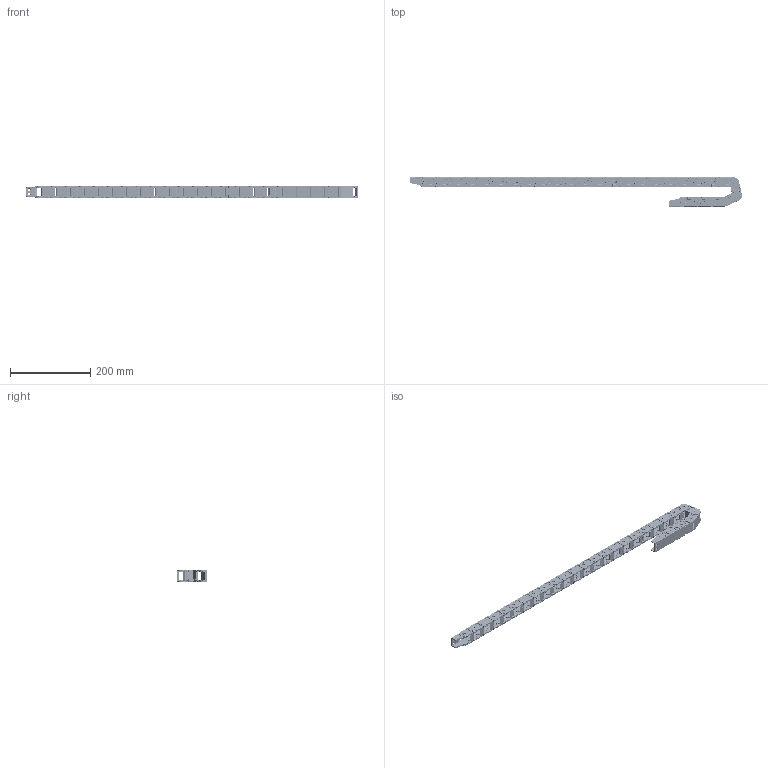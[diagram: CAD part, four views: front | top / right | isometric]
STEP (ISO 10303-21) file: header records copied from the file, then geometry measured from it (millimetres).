
FILE_DESCRIPTION(/* description */ (''),/* implementation_level */ '2;1');
FILE_NAME(/* name */ 'BF18X18R28.stp',/* time_stamp */ '2022-11-17T15:02:18+08:00',/* author */ (''),/* organization */ (''),/* preprocessor_version */ 'ST-DEVELOPER v16',/* originating_system */ 'SIEMENS PLM Software NX 10.0',/* authorisation */ '');
FILE_SCHEMA (('CONFIG_CONTROL_DESIGN'));
Products named in the file (1): 18X18R28
Bounding box: 826.79 x 72.49 x 29.7 mm (x, y, z)
Volume: 258674.1 mm3; surface area: 245775.5 mm2
Topology: 56 solids, 56 shells, 14645 faces, 38895 edges, 25331 vertices
Faces by surface type: plane 7390, cylinder 2864, bspline 2789, torus 834, extrusion 756, cone 8, sphere 4
Full cylindrical faces by diameter (mm): 4 x54
Entity records: 597190 total; most frequent: CARTESIAN_POINT 251655, ORIENTED_EDGE 77082, DIRECTION 61382, EDGE_CURVE 38541, VERTEX_POINT 25304, VECTOR 24524, LINE 23768, AXIS2_PLACEMENT_3D 18429
